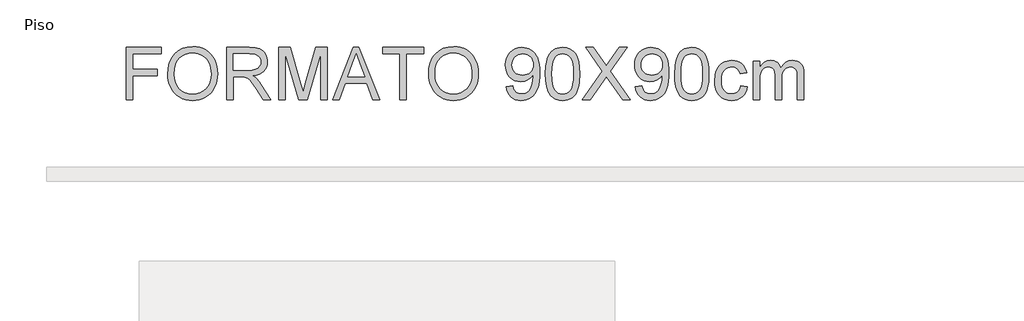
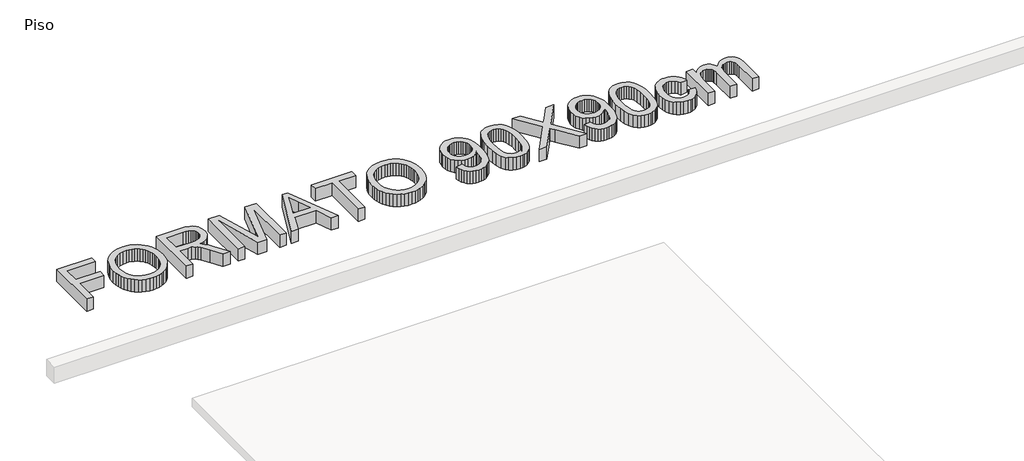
# One storey, part 2 of 2: 1 proxy.
"""IFC4 building model written with IfcOpenShell, lengths in millimetres."""

from ifc_helpers import new_model, si_unit, origin, origin_with_axes, place, context, project, spatial, polyline, outline, extrude, element, save

model = new_model("IFC4")

# Units and contexts
model_context = context("Model", 3, world=origin())
ifc_project = project(units=[si_unit("LENGTHUNIT", "METRE", prefix="MILLI")], contexts=[model_context])

# Site, building, storey
site = spatial("IfcSite", under=ifc_project)
building = spatial("IfcBuilding", under=site)
storey = spatial("IfcBuildingStorey", under=building, Name="Piso", Elevation=0.0)

# Proxy
placement = place(None, origin())
element("IfcBuildingElementProxy", 1, Name="600mm Arial", ObjectType="600mm Arial", at=placement, inside=storey, context=model_context, shape_type="SweptSolid", body=[
    extrude(outline(polyline([(92602.0859381, 2702.6380465), (92602.0859381, 3305.3759074), (93007.0504384, 3305.3759074), (93007.0504384, 3230.0336748), (92677.4281707, 3230.0336748), (92677.4281707, 3051.0958724), (92959.961543, 3051.0958724), (92959.961543, 2975.7536397), (92677.4281707, 2975.7536397), (92677.4281707, 2702.6380465), (92602.0859381, 2702.6380465)])), origin_with_axes(), (0.0, 0.0, 1.0), 150.0),
    extrude(outline(polyline([(93082.392671, 2996.0607259), (93087.4142602, 3066.7584483), (93102.4790279, 3129.3443727), (93127.5869741, 3183.8184992), (93143.9071391, 3208.0136381), (93162.7380987, 3230.1808276), (93205.8262774, 3267.1989534), (93254.7453857, 3293.6404718), (93309.4954237, 3309.5053828), (93370.0763912, 3314.7936865), (93410.6261841, 3312.310483), (93449.134232, 3304.8608726), (93485.6005348, 3292.4448553), (93520.0250925, 3275.062431), (93551.4422148, 3253.2378317), (93578.8862117, 3227.495289), (93602.357083, 3197.8348032), (93621.8548287, 3164.2563741), (93637.1771138, 3127.5233569), (93648.1216032, 3088.3991067), (93654.6882968, 3046.8836235), (93656.8771947, 3002.9769074), (93654.5733337, 2958.4907771), (93647.6617507, 2916.4142739), (93636.1424457, 2876.7473978), (93620.0154187, 2839.4901487), (93599.6623474, 2805.6266111), (93575.4649091, 2776.1408692), (93547.423104, 2751.032923), (93515.5369321, 2730.3027726), (93481.0617906, 2714.0791766), (93445.2530769, 2702.4908937), (93408.110791, 2695.537924), (93369.6349328, 2693.2202674), (93328.3769671, 2695.7816458), (93289.3630815, 2703.465781), (93252.5932761, 2716.272673), (93218.0675508, 2734.2023217), (93186.6872166, 2756.56035), (93159.3535844, 2782.6523805), (93136.0666541, 2812.4784132), (93116.8264257, 2846.0384482), (93101.761658, 2881.9851177), (93091.0011097, 2918.9710538), (93084.5447807, 2956.9962565), (93082.392671, 2996.0607259)]), holes=[polyline([(93157.7349036, 2995.3249619), (93161.5010955, 2945.375784), (93172.7996713, 2901.0368065), (93191.6306309, 2862.3080295), (93217.9939744, 2829.1894529), (93250.0410947, 2802.665161), (93285.9233848, 2783.7192383), (93325.6408447, 2772.3516846), (93369.1934744, 2768.5625001), (93413.4910652, 2772.3884728), (93453.6775746, 2783.8663911), (93489.7530028, 2802.9962548), (93521.7173496, 2829.7780641), (93547.8875551, 2863.5956165), (93566.5805589, 2903.8327097), (93577.7963613, 2950.4893437), (93581.5349621, 3003.5655186), (93579.9346754, 3038.0452586), (93575.1338153, 3070.2625243), (93567.1323819, 3100.2173158), (93555.9303752, 3127.9096329), (93541.6519553, 3152.9761924), (93524.4212823, 3175.0537106), (93504.2383563, 3194.1421877), (93481.1031774, 3210.2416235), (93455.7331153, 3223.0209243), (93428.84554, 3232.1489963), (93400.4404514, 3237.6258395), (93370.5178496, 3239.4514539), (93328.4781346, 3235.9335823), (93289.4734461, 3225.3799676), (93253.503784, 3207.7906097), (93220.5691484, 3183.1655086), (93193.0791663, 3150.318245), (93173.4434648, 3108.0623993), (93161.6620439, 3056.3979716), (93157.7349036, 2995.3249619)])]), origin_with_axes(), (0.0, 0.0, 1.0), 150.0),
    extrude(outline(polyline([(93760.4727645, 2702.6380465), (93760.4727645, 3305.3759074), (94020.1974531, 3305.3759074), (94090.0030617, 3301.3108114), (94140.7891711, 3289.1155232), (94160.3880844, 3279.4218327), (94177.9084644, 3266.6011451), (94193.3503112, 3250.6534606), (94206.7136247, 3231.5787792), (94217.4971656, 3210.4025718), (94225.1996949, 3188.1503097), (94229.8212125, 3164.8219926), (94231.3617183, 3140.4176208), (94228.809537, 3109.4603509), (94221.152993, 3081.0414668), (94208.3920863, 3055.1609684), (94190.5268169, 3031.8188558), (94167.3272585, 3011.76009), (94138.563485, 2995.7296321), (94104.2354964, 2983.727482), (94064.3432925, 2975.7536397), (94089.1753272, 2959.5300438), (94107.1647568, 2943.527177), (94138.0300562, 2906.9229184), (94168.233168, 2865.9776524), (94268.738529, 2702.6380465), (94181.1826142, 2702.6380465), (94102.7501728, 2827.5707721), (94046.0963456, 2910.2706446), (94025.0351013, 2934.3853094), (94006.2915137, 2949.3397125), (93970.4598074, 2963.6871103), (93926.7554263, 2966.3358607), (93835.8149971, 2966.3358607), (93835.8149971, 2702.6380465), (93760.4727645, 2702.6380465)]), holes=[polyline([(93835.8149971, 3041.6780933), (94004.4521037, 3041.6780933), (94052.8837684, 3044.3452377), (94090.4629142, 3052.3466711), (94118.7530396, 3066.2158224), (94139.3176431, 3086.4861203), (94151.8440251, 3111.0054553), (94156.0194857, 3137.6217176), (94154.0283244, 3156.8895371), (94148.0548405, 3174.3731289), (94138.099034, 3190.0724931), (94124.1609049, 3203.9876296), (94105.9185565, 3215.3827744), (94083.050092, 3223.5221635), (94055.5555114, 3228.405797), (94023.4348147, 3230.0336748), (93835.8149971, 3230.0336748), (93835.8149971, 3041.6780933)])]), origin_with_axes(), (0.0, 0.0, 1.0), 150.0),
    extrude(outline(polyline([(94363.2106254, 2702.6380465), (94363.2106254, 3305.3759074), (94492.8522405, 3305.3759074), (94616.1662853, 2880.5457794), (94641.0351082, 2791.8126422), (94667.9640702, 2887.9034193), (94789.2179758, 3305.3759074), (94918.8595909, 3305.3759074), (94918.8595909, 2702.6380465), (94843.5173583, 2702.6380465), (94843.5173583, 3230.0336748), (94692.0971291, 2702.6380465), (94589.9730872, 2702.6380465), (94438.552858, 3230.0336748), (94438.552858, 2702.6380465), (94363.2106254, 2702.6380465)])), origin_with_axes(), (0.0, 0.0, 1.0), 150.0),
    extrude(outline(polyline([(94980.5166133, 2702.6380465), (95221.1114382, 3305.3759074), (95285.2700581, 3305.3759074), (95525.864883, 2702.6380465), (95446.2552192, 2702.6380465), (95377.2405569, 2890.9936281), (95128.9937866, 2890.9936281), (95060.1262771, 2702.6380465), (94980.5166133, 2702.6380465)]), holes=[polyline([(95156.6585126, 2966.3358607), (95349.7229837, 2966.3358607), (95295.4236012, 3114.5187283), (95253.1907481, 3230.0336748), (95215.6667846, 3127.4681746), (95156.6585126, 2966.3358607)])]), origin_with_axes(), (0.0, 0.0, 1.0), 150.0),
    extrude(outline(polyline([(95757.0419287, 2702.6380465), (95757.0419287, 3230.0336748), (95559.2685681, 3230.0336748), (95559.2685681, 3305.3759074), (96030.1575219, 3305.3759074), (96030.1575219, 3230.0336748), (95832.3841613, 3230.0336748), (95832.3841613, 2702.6380465), (95757.0419287, 2702.6380465)])), origin_with_axes(), (0.0, 0.0, 1.0), 150.0),
    extrude(outline(polyline([(96086.6641964, 2996.0607259), (96091.6857856, 3066.7584483), (96106.7505533, 3129.3443727), (96131.8584995, 3183.8184992), (96148.1786645, 3208.0136381), (96167.0096242, 3230.1808276), (96210.0978028, 3267.1989534), (96259.0169111, 3293.6404718), (96313.7669491, 3309.5053828), (96374.3479166, 3314.7936865), (96414.8977096, 3312.310483), (96453.4057574, 3304.8608726), (96489.8720602, 3292.4448553), (96524.2966179, 3275.062431), (96555.7137403, 3253.2378317), (96583.1577371, 3227.495289), (96606.6286084, 3197.8348032), (96626.1263541, 3164.2563741), (96641.4486392, 3127.5233569), (96652.3931286, 3088.3991067), (96658.9598222, 3046.8836235), (96661.1487201, 3002.9769074), (96658.8448591, 2958.4907771), (96651.9332761, 2916.4142739), (96640.4139711, 2876.7473978), (96624.2869442, 2839.4901487), (96603.9338728, 2805.6266111), (96579.7364345, 2776.1408692), (96551.6946295, 2751.032923), (96519.8084575, 2730.3027726), (96485.3333161, 2714.0791766), (96449.5246024, 2702.4908937), (96412.3823164, 2695.537924), (96373.9064582, 2693.2202674), (96332.6484925, 2695.7816458), (96293.6346069, 2703.465781), (96256.8648015, 2716.272673), (96222.3390762, 2734.2023217), (96190.958742, 2756.56035), (96163.6251098, 2782.6523805), (96140.3381795, 2812.4784132), (96121.0979512, 2846.0384482), (96106.0331835, 2881.9851177), (96095.2726351, 2918.9710538), (96088.8163061, 2956.9962565), (96086.6641964, 2996.0607259)]), holes=[polyline([(96162.006429, 2995.3249619), (96165.7726209, 2945.375784), (96177.0711967, 2901.0368065), (96195.9021564, 2862.3080295), (96222.2654998, 2829.1894529), (96254.3126201, 2802.665161), (96290.1949102, 2783.7192383), (96329.9123701, 2772.3516846), (96373.4649998, 2768.5625001), (96417.7625906, 2772.3884728), (96457.9491, 2783.8663911), (96494.0245282, 2802.9962548), (96525.988875, 2829.7780641), (96552.1590805, 2863.5956165), (96570.8520844, 2903.8327097), (96582.0678867, 2950.4893437), (96585.8064875, 3003.5655186), (96584.2062008, 3038.0452586), (96579.4053407, 3070.2625243), (96571.4039074, 3100.2173158), (96560.2019006, 3127.9096329), (96545.9234807, 3152.9761924), (96528.6928077, 3175.0537106), (96508.5098818, 3194.1421877), (96485.3747028, 3210.2416235), (96460.0046407, 3223.0209243), (96433.1170654, 3232.1489963), (96404.7119768, 3237.6258395), (96374.789375, 3239.4514539), (96332.74966, 3235.9335823), (96293.7449715, 3225.3799676), (96257.7753094, 3207.7906097), (96224.8406738, 3183.1655086), (96197.3506917, 3150.318245), (96177.7149902, 3108.0623993), (96165.9335693, 3056.3979716), (96162.006429, 2995.3249619)])]), origin_with_axes(), (0.0, 0.0, 1.0), 150.0),
    extrude(outline(polyline([(96981.3532087, 2853.3225117), (97056.6954413, 2862.7402908), (97069.5713111, 2819.9740089), (97079.0442725, 2803.7090262), (97090.5405848, 2790.856149), (97103.9314895, 2781.1026776), (97119.0882277, 2774.1359123), (97154.6992048, 2768.5625001), (97186.6497561, 2772.1493495), (97215.6940396, 2782.9098979), (97239.8270985, 2799.6669228), (97257.0439759, 2821.2432018), (97270.0853926, 2849.6069036), (97281.6920695, 2886.7261969), (97289.8590498, 2929.326932), (97292.5813766, 2974.134959), (97292.1399182, 2988.8502388), (97266.0386906, 2956.991658), (97231.8808474, 2931.7549531), (97192.1311978, 2915.3106279), (97149.2545513, 2909.8291862), (97113.4642317, 2913.1769124), (97080.5525887, 2923.2200908), (97050.5196223, 2939.9587216), (97023.3653325, 2963.3928047), (97000.86475, 2992.2991325), (96984.7929053, 3025.4544973), (96975.1497985, 3062.8588992), (96971.9354296, 3104.5123381), (96975.3061484, 3147.5545315), (96985.4183047, 3186.182141), (97002.2718986, 3220.3951665), (97025.8669301, 3250.1936081), (97054.5387331, 3274.3358641), (97086.6226416, 3291.5803326), (97122.1186556, 3301.9270137), (97161.0267751, 3305.3759074), (97189.7537604, 3303.4077387), (97217.2207499, 3297.5032327), (97243.4277435, 3287.6623894), (97268.3747413, 3273.8852086), (97291.2294103, 3256.4659962), (97311.1594174, 3235.6990575), (97328.1647626, 3211.5843928), (97342.2454459, 3184.1220018), (97353.2865043, 3151.7299921), (97361.1729746, 3112.8264711), (97365.9048568, 3067.4114388), (97367.4821508, 3015.4848952), (97365.9094553, 2960.950988), (97361.1913687, 2912.2756015), (97353.3278911, 2869.4587358), (97342.3190223, 2832.5003908), (97328.2061493, 2800.4992558), (97311.0306587, 2772.5540197), (97290.7925504, 2748.6646826), (97267.4918245, 2728.8312446), (97241.5975306, 2713.2514421), (97213.5787181, 2702.1230117), (97183.4353872, 2695.4459535), (97151.1675377, 2693.2202674), (97117.3315911, 2695.8460252), (97086.7514003, 2703.7232984), (97059.4269651, 2716.8520871), (97035.3582856, 2735.2323913), (97015.152367, 2758.3675703), (96999.4162146, 2785.7609833), (96988.1498285, 2817.4126305), (96981.3532087, 2853.3225117)]), holes=[polyline([(97292.1399182, 3106.2781716), (97290.1073702, 3133.2807101), (97284.0097261, 3157.3401926), (97273.846986, 3178.4566191), (97259.6191498, 3196.6299896), (97242.0251934, 3211.2441019), (97221.7640925, 3221.6827535), (97198.8358472, 3227.9459445), (97173.2404574, 3230.0336748), (97146.8265301, 3227.7849961), (97122.9142004, 3221.03896), (97101.5034683, 3209.7955666), (97082.5943338, 3194.0548157), (97067.14329, 3174.7364124), (97056.1068301, 3152.7600617), (97049.4849542, 3128.1257636), (97047.2776622, 3100.8335181), (97049.3653925, 3076.3555699), (97055.6285835, 3054.2780516), (97066.0672351, 3034.6009634), (97080.6813474, 3017.3243052), (97098.863915, 3003.2574174), (97120.0079327, 2993.2096404), (97144.1134004, 2987.1809742), (97171.1803182, 2985.1714188), (97196.4216216, 2987.1809742), (97219.3176773, 2993.2096404), (97239.8684852, 3003.2574174), (97258.0740454, 3017.3243052), (97272.9778648, 3034.9412542), (97283.62345, 3055.639215), (97290.0108012, 3079.4181875), (97292.1399182, 3106.2781716)])]), origin_with_axes(), (0.0, 0.0, 1.0), 150.0),
    extrude(outline(polyline([(97433.4066044, 2999.1509346), (97438.9432284, 3095.6279879), (97445.8640084, 3136.5410643), (97455.5531005, 3172.5705072), (97467.9691178, 3204.0106222), (97483.0706737, 3231.1557149), (97500.8577682, 3254.0057853), (97521.3304012, 3272.5608335), (97544.5575507, 3286.9174283), (97570.6081945, 3297.1721389), (97599.4823325, 3303.3249653), (97631.179965, 3305.3759074), (97677.6066727, 3300.5198651), (97719.1773382, 3285.9517381), (97753.9421867, 3262.2417435), (97779.9514438, 3229.9600984), (97799.5963424, 3189.3827143), (97815.2681153, 3140.7855028), (97825.532023, 3079.0732981), (97828.9533256, 2999.1509346), (97823.4718838, 2903.2257044), (97816.6200817, 2862.4505838), (97807.0275587, 2826.4671261), (97794.7081103, 2795.0132155), (97779.6755323, 2767.8267361), (97761.9298246, 2744.9076878), (97741.4709871, 2726.2560706), (97718.2162465, 2711.8029067), (97692.0828293, 2701.4792182), (97663.0707354, 2695.2850051), (97631.179965, 2693.2202674), (97589.6828759, 2696.8071169), (97552.8946764, 2707.5676653), (97520.8153664, 2725.5019125), (97493.444946, 2750.6098587), (97467.1781715, 2795.9972999), (97448.4161898, 2852.5499596), (97437.1590007, 2920.2678378), (97433.4066044, 2999.1509346)]), holes=[polyline([(97508.748837, 2999.2980874), (97510.9561289, 2933.8012967), (97517.5780048, 2880.7849027), (97528.6144647, 2840.2489053), (97544.0655085, 2812.1933047), (97562.7539139, 2793.1048277), (97583.5024584, 2779.4702012), (97606.3111421, 2771.2894254), (97631.179965, 2768.5625001), (97656.0487878, 2771.2986224), (97678.8574715, 2779.5069894), (97699.6060161, 2793.1876011), (97718.2944214, 2812.3404575), (97733.7454652, 2840.4420434), (97744.7819251, 2880.9688437), (97751.403801, 2933.9208584), (97753.611093, 2999.2980874), (97751.4773774, 3063.0612342), (97745.0762307, 3115.1441277), (97734.4076528, 3155.5467678), (97719.4716438, 3184.2691546), (97701.0959381, 3204.2911322), (97680.1082703, 3218.5925448), (97656.5086403, 3227.1733923), (97630.2970482, 3230.0336748), (97605.556984, 3227.5136831), (97583.1345764, 3219.9537081), (97563.0298254, 3207.3537498), (97545.2427309, 3189.7138081), (97529.2766523, 3158.4438385), (97517.8723104, 3116.2845619), (97511.0297053, 3063.2359782), (97508.748837, 2999.2980874)])]), origin_with_axes(), (0.0, 0.0, 1.0), 150.0),
    extrude(outline(polyline([(97857.2066628, 2702.6380465), (98089.5609309, 3031.0830918), (97894.8777791, 3305.3759074), (97985.2295971, 3305.3759074), (98094.8584317, 3151.0126222), (98121.0148415, 3111.9067662), (98131.793784, 3090.8271278), (98175.0567066, 3152.0426918), (98283.5083188, 3305.3759074), (98375.184512, 3305.3759074), (98180.5013602, 3030.200175), (98412.8556283, 2702.6380465), (98322.5038103, 2702.6380465), (98167.6990667, 2921.0127989), (98135.4726039, 2966.3358607), (98100.0087796, 2916.5982149), (97948.882856, 2702.6380465), (97857.2066628, 2702.6380465)])), origin_with_axes(), (0.0, 0.0, 1.0), 150.0),
    extrude(outline(polyline([(98469.3623028, 2853.3225117), (98544.7045354, 2862.7402908), (98557.5804052, 2819.9740089), (98567.0533666, 2803.7090262), (98578.5496789, 2790.856149), (98591.9405836, 2781.1026776), (98607.0973218, 2774.1359123), (98642.7082989, 2768.5625001), (98674.6588502, 2772.1493495), (98703.7031337, 2782.9098979), (98727.8361926, 2799.6669228), (98745.05307, 2821.2432018), (98758.0944867, 2849.6069036), (98769.7011636, 2886.7261969), (98777.8681439, 2929.326932), (98780.5904707, 2974.134959), (98780.1490123, 2988.8502388), (98754.0477847, 2956.991658), (98719.8899415, 2931.7549531), (98680.1402919, 2915.3106279), (98637.2636454, 2909.8291862), (98601.4733258, 2913.1769124), (98568.5616828, 2923.2200908), (98538.5287164, 2939.9587216), (98511.3744266, 2963.3928047), (98488.8738441, 2992.2991325), (98472.8019994, 3025.4544973), (98463.1588926, 3062.8588992), (98459.9445237, 3104.5123381), (98463.3152425, 3147.5545315), (98473.4273988, 3186.182141), (98490.2809927, 3220.3951665), (98513.8760242, 3250.1936081), (98542.5478272, 3274.3358641), (98574.6317357, 3291.5803326), (98610.1277497, 3301.9270137), (98649.0358692, 3305.3759074), (98677.7628545, 3303.4077387), (98705.229844, 3297.5032327), (98731.4368376, 3287.6623894), (98756.3838354, 3273.8852086), (98779.2385044, 3256.4659962), (98799.1685114, 3235.6990575), (98816.1738567, 3211.5843928), (98830.25454, 3184.1220018), (98841.2955984, 3151.7299921), (98849.1820687, 3112.8264711), (98853.9139509, 3067.4114388), (98855.4912449, 3015.4848952), (98853.9185494, 2960.950988), (98849.2004628, 2912.2756015), (98841.3369851, 2869.4587358), (98830.3281164, 2832.5003908), (98816.2152434, 2800.4992558), (98799.0397527, 2772.5540197), (98778.8016445, 2748.6646826), (98755.5009186, 2728.8312446), (98729.6066247, 2713.2514421), (98701.5878122, 2702.1230117), (98671.4444812, 2695.4459535), (98639.1766317, 2693.2202674), (98605.3406852, 2695.8460252), (98574.7604944, 2703.7232984), (98547.4360592, 2716.8520871), (98523.3673797, 2735.2323913), (98503.1614611, 2758.3675703), (98487.4253087, 2785.7609833), (98476.1589226, 2817.4126305), (98469.3623028, 2853.3225117)]), holes=[polyline([(98780.1490123, 3106.2781716), (98778.1164643, 3133.2807101), (98772.0188202, 3157.3401926), (98761.8560801, 3178.4566191), (98747.6282439, 3196.6299896), (98730.0342875, 3211.2441019), (98709.7731866, 3221.6827535), (98686.8449413, 3227.9459445), (98661.2495515, 3230.0336748), (98634.8356242, 3227.7849961), (98610.9232945, 3221.03896), (98589.5125624, 3209.7955666), (98570.6034278, 3194.0548157), (98555.152384, 3174.7364124), (98544.1159242, 3152.7600617), (98537.4940483, 3128.1257636), (98535.2867563, 3100.8335181), (98537.3744866, 3076.3555699), (98543.6376776, 3054.2780516), (98554.0763292, 3034.6009634), (98568.6904415, 3017.3243052), (98586.8730091, 3003.2574174), (98608.0170268, 2993.2096404), (98632.1224945, 2987.1809742), (98659.1894123, 2985.1714188), (98684.4307157, 2987.1809742), (98707.3267713, 2993.2096404), (98727.8775793, 3003.2574174), (98746.0831395, 3017.3243052), (98760.9869589, 3034.9412542), (98771.6325441, 3055.639215), (98778.0198952, 3079.4181875), (98780.1490123, 3106.2781716)])]), origin_with_axes(), (0.0, 0.0, 1.0), 150.0),
    extrude(outline(polyline([(98921.4156984, 2999.1509346), (98926.9523225, 3095.6279879), (98933.8731025, 3136.5410643), (98943.5621946, 3172.5705072), (98955.9782119, 3204.0106222), (98971.0797678, 3231.1557149), (98988.8668623, 3254.0057853), (99009.3394953, 3272.5608335), (99032.5666448, 3286.9174283), (99058.6172885, 3297.1721389), (99087.4914266, 3303.3249653), (99119.189059, 3305.3759074), (99165.6157668, 3300.5198651), (99207.1864323, 3285.9517381), (99241.9512808, 3262.2417435), (99267.9605379, 3229.9600984), (99287.6054364, 3189.3827143), (99303.2772094, 3140.7855028), (99313.5411171, 3079.0732981), (99316.9624197, 2999.1509346), (99311.4809779, 2903.2257044), (99304.6291758, 2862.4505838), (99295.0366527, 2826.4671261), (99282.7172044, 2795.0132155), (99267.6846264, 2767.8267361), (99249.9389187, 2744.9076878), (99229.4800812, 2726.2560706), (99206.2253406, 2711.8029067), (99180.0919234, 2701.4792182), (99151.0798295, 2695.2850051), (99119.189059, 2693.2202674), (99077.69197, 2696.8071169), (99040.9037705, 2707.5676653), (99008.8244605, 2725.5019125), (98981.4540401, 2750.6098587), (98955.1872656, 2795.9972999), (98936.4252838, 2852.5499596), (98925.1680948, 2920.2678378), (98921.4156984, 2999.1509346)]), holes=[polyline([(98996.7579311, 2999.2980874), (98998.965223, 2933.8012967), (99005.5870989, 2880.7849027), (99016.6235588, 2840.2489053), (99032.0746026, 2812.1933047), (99050.7630079, 2793.1048277), (99071.5115525, 2779.4702012), (99094.3202362, 2771.2894254), (99119.189059, 2768.5625001), (99144.0578819, 2771.2986224), (99166.8665656, 2779.5069894), (99187.6151102, 2793.1876011), (99206.3035155, 2812.3404575), (99221.7545593, 2840.4420434), (99232.7910192, 2880.9688437), (99239.4128951, 2933.9208584), (99241.620187, 2999.2980874), (99239.4864715, 3063.0612342), (99233.0853248, 3115.1441277), (99222.4167469, 3155.5467678), (99207.4807379, 3184.2691546), (99189.1050322, 3204.2911322), (99168.1173644, 3218.5925448), (99144.5177344, 3227.1733923), (99118.3061423, 3230.0336748), (99093.5660781, 3227.5136831), (99071.1436705, 3219.9537081), (99051.0389194, 3207.3537498), (99033.251825, 3189.7138081), (99017.2857464, 3158.4438385), (99005.8814045, 3116.2845619), (98999.0387994, 3063.2359782), (98996.7579311, 2999.2980874)])]), origin_with_axes(), (0.0, 0.0, 1.0), 150.0),
    extrude(outline(polyline([(99684.2558036, 2862.7402908), (99759.5980363, 2853.3225117), (99751.4034648, 2817.7713154), (99738.5919743, 2786.3128063), (99721.1635648, 2758.9469844), (99699.1182362, 2735.6738497), (99673.3848907, 2717.1004075), (99644.8924302, 2703.833663), (99613.6408547, 2695.8736163), (99579.6301642, 2693.2202674), (99537.3743185, 2696.92208), (99499.4870716, 2708.0275178), (99465.9684233, 2726.5365806), (99436.8183737, 2752.4492687), (99413.2233422, 2785.2781382), (99396.3697483, 2824.5357456), (99386.257592, 2870.2220909), (99382.8868732, 2922.337174), (99388.6442264, 2989.3836677), (99395.8409179, 3019.5545898), (99405.9162861, 3047.4906288), (99418.9393087, 3072.6307646), (99434.9789637, 3094.4139773), (99454.0352511, 3112.8402667), (99476.1081708, 3127.9096329), (99500.1998429, 3139.6266745), (99525.3123876, 3147.9959899), (99551.4458049, 3153.0175791), (99578.6000946, 3154.6914422), (99612.0267724, 3152.3921797), (99642.2620739, 3145.4943923), (99669.3059991, 3133.99808), (99693.1585479, 3117.9032427), (99713.4150503, 3097.5777624), (99729.6708359, 3073.3895213), (99741.9259049, 3045.3385191), (99750.1802572, 3013.4247561), (99674.8380246, 3004.006977), (99661.1712084, 3036.8772332), (99639.889235, 3060.440075), (99612.1693267, 3074.6219259), (99579.1887058, 3079.3492096), (99553.5887175, 3077.022356), (99530.4995238, 3070.0417951), (99509.9211247, 3058.407527), (99491.8535202, 3042.1195517), (99477.1428389, 3020.8007901), (99466.6352094, 2994.0741631), (99460.3306317, 2961.9396708), (99458.2291058, 2924.3973132), (99460.2846465, 2886.289337), (99466.4512684, 2853.7823642), (99476.7289716, 2826.8763948), (99491.1177562, 2805.5714288), (99508.8266757, 2789.3800225), (99529.064784, 2777.8147322), (99551.832081, 2770.8755581), (99577.1285666, 2768.5625001), (99616.1424522, 2774.3382474), (99633.0144402, 2781.5579315), (99648.1297917, 2791.6654894), (99661.0654424, 2804.7712854), (99671.3983279, 2820.9856844), (99679.1284483, 2840.3086862), (99684.2558036, 2862.7402908)])), origin_with_axes(), (0.0, 0.0, 1.0), 150.0),
    extrude(outline(polyline([(99825.5224898, 2702.6380465), (99825.5224898, 3145.2736631), (99900.8647224, 3145.2736631), (99900.8647224, 3072.4330281), (99923.5262533, 3105.8918955), (99952.6625073, 3132.1034877), (99987.2802031, 3149.0444536), (100026.3860592, 3154.6914422), (100068.2878184, 3148.934089), (100086.1208981, 3141.7373974), (100101.8754446, 3131.6620293), (100126.9649966, 3104.0156974), (100143.3725336, 3067.1355273), (100170.8349246, 3105.4412401), (100202.1600765, 3132.8024635), (100237.3479893, 3149.2191975), (100276.3986631, 3154.6914422), (100306.5603882, 3152.4151724), (100333.0340962, 3145.5863628), (100355.8197873, 3134.2050136), (100374.9174614, 3118.2711247), (100390.0144188, 3097.6007551), (100400.7979597, 3072.0099638), (100407.2680843, 3041.4987508), (100409.4247925, 3006.0671161), (100409.4247925, 2702.6380465), (100334.0825599, 2702.6380465), (100334.0825599, 2973.6935006), (100332.3351204, 3011.2726464), (100327.092802, 3036.6013217), (100317.2703527, 3053.9469578), (100301.7825207, 3067.5769857), (100281.8617107, 3076.4061536), (100258.7403273, 3079.3492096), (100237.389376, 3077.4638144), (100217.9238199, 3071.8076287), (100200.3436591, 3062.3806526), (100184.6488935, 3049.182886), (100171.740834, 3031.8280529), (100162.5207915, 3009.9298771), (100156.988766, 2983.4883587), (100155.1447575, 2952.5034976), (100155.1447575, 2702.6380465), (100079.8025249, 2702.6380465), (100079.8025249, 2982.0812101), (100075.4431232, 3024.6819451), (100069.9938712, 3041.4021818), (100062.3649183, 3055.0689979), (100052.2527619, 3065.6915905), (100039.3538995, 3073.2791567), (100023.6683309, 3077.8316964), (100005.1960562, 3079.3492096), (99976.1701668, 3075.3025076), (99949.4251458, 3063.1624018), (99927.3522261, 3043.2231977), (99912.3426407, 3015.7792008), (99903.734202, 2977.7034143), (99900.8647224, 2925.8688412), (99900.8647224, 2702.6380465), (99825.5224898, 2702.6380465)])), origin_with_axes(), (0.0, 0.0, 1.0), 150.0),
])

save(model, "model.ifc")
